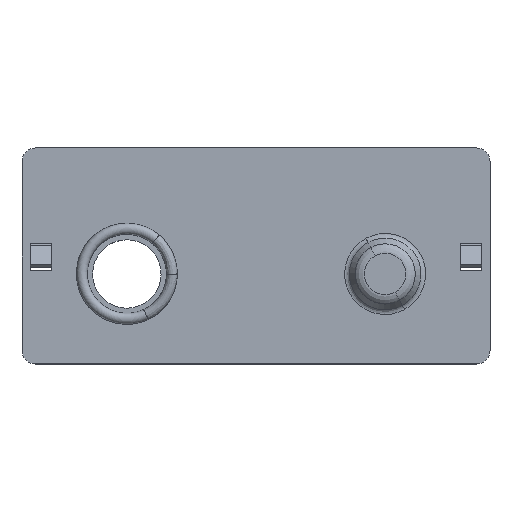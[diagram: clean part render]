
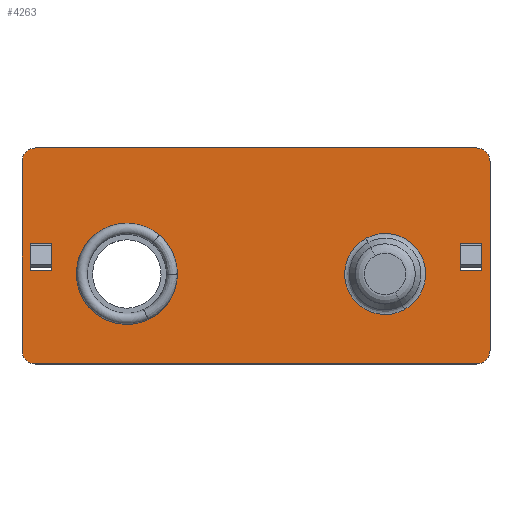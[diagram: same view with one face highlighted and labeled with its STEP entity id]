
A CAD part, top view. The second image highlights one B-rep face of the part: STEP entity #4263.
In plain terms, the highlighted planar face has unit normal (0, 0, 1).
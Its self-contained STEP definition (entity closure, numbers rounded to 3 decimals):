
#214=CARTESIAN_POINT('Vertex',(15.429,-1.975,0.3)) ;
#230=CARTESIAN_POINT('Vertex',(13.271,1.975,0.3)) ;
#233=CARTESIAN_POINT('Axis2P3D Location',(14.35,0.,0.3)) ;
#250=CARTESIAN_POINT('Axis2P3D Location',(14.35,0.,0.3)) ;
#579=CARTESIAN_POINT('Axis2P3D Location',(0.,0.,0.3)) ;
#583=CARTESIAN_POINT('Vertex',(2.266,-1.057,0.3)) ;
#585=CARTESIAN_POINT('Vertex',(0.,2.5,0.3)) ;
#1281=CARTESIAN_POINT('Axis2P3D Location',(0.,0.,0.3)) ;
#1285=CARTESIAN_POINT('Vertex',(1.199,-2.194,0.3)) ;
#1288=CARTESIAN_POINT('Axis2P3D Location',(0.,0.,0.3)) ;
#1292=CARTESIAN_POINT('Vertex',(-1.199,2.194,0.3)) ;
#1295=CARTESIAN_POINT('Axis2P3D Location',(0.,0.,0.3)) ;
#1535=CARTESIAN_POINT('Vertex',(-5.825,-4.25,0.3)) ;
#1538=CARTESIAN_POINT('Line Origine',(-5.825,1.,0.3)) ;
#1542=CARTESIAN_POINT('Vertex',(-5.825,6.25,0.3)) ;
#1562=CARTESIAN_POINT('Axis2P3D Location',(-5.075,-4.25,0.3)) ;
#1566=CARTESIAN_POINT('Vertex',(-5.075,-5.,0.3)) ;
#1593=CARTESIAN_POINT('Line Origine',(7.175,-5.,0.3)) ;
#1597=CARTESIAN_POINT('Vertex',(19.425,-5.,0.3)) ;
#1624=CARTESIAN_POINT('Axis2P3D Location',(19.425,-4.25,0.3)) ;
#1628=CARTESIAN_POINT('Vertex',(20.175,-4.25,0.3)) ;
#1655=CARTESIAN_POINT('Line Origine',(20.175,1.,0.3)) ;
#1659=CARTESIAN_POINT('Vertex',(20.175,6.25,0.3)) ;
#1686=CARTESIAN_POINT('Axis2P3D Location',(19.425,6.25,0.3)) ;
#1690=CARTESIAN_POINT('Vertex',(19.425,7.,0.3)) ;
#1717=CARTESIAN_POINT('Line Origine',(7.175,7.,0.3)) ;
#1721=CARTESIAN_POINT('Vertex',(-5.075,7.,0.3)) ;
#1748=CARTESIAN_POINT('Axis2P3D Location',(-5.075,6.25,0.3)) ;
#1774=CARTESIAN_POINT('Vertex',(19.725,1.7,0.3)) ;
#1797=CARTESIAN_POINT('Vertex',(19.725,0.988,0.3)) ;
#1800=CARTESIAN_POINT('Line Origine',(19.725,1.344,0.3)) ;
#1843=CARTESIAN_POINT('Vertex',(19.725,0.2,0.3)) ;
#1846=CARTESIAN_POINT('Line Origine',(19.725,0.594,0.3)) ;
#1875=CARTESIAN_POINT('Vertex',(18.525,0.2,0.3)) ;
#1878=CARTESIAN_POINT('Line Origine',(19.125,0.2,0.3)) ;
#1908=CARTESIAN_POINT('Vertex',(18.525,0.988,0.3)) ;
#1911=CARTESIAN_POINT('Line Origine',(18.525,0.594,0.3)) ;
#1934=CARTESIAN_POINT('Line Origine',(18.525,1.344,0.3)) ;
#1938=CARTESIAN_POINT('Vertex',(18.525,1.7,0.3)) ;
#1980=CARTESIAN_POINT('Line Origine',(-4.775,1.7,0.3)) ;
#2001=CARTESIAN_POINT('Vertex',(-5.375,1.7,0.3)) ;
#2017=CARTESIAN_POINT('Vertex',(-4.175,1.7,0.3)) ;
#2020=CARTESIAN_POINT('Line Origine',(-4.775,1.7,0.3)) ;
#2055=CARTESIAN_POINT('Vertex',(-4.175,0.988,0.3)) ;
#2058=CARTESIAN_POINT('Line Origine',(-4.175,1.344,0.3)) ;
#2089=CARTESIAN_POINT('Vertex',(-4.175,0.2,0.3)) ;
#2092=CARTESIAN_POINT('Line Origine',(-4.175,0.594,0.3)) ;
#2128=CARTESIAN_POINT('Vertex',(-5.375,0.2,0.3)) ;
#2131=CARTESIAN_POINT('Line Origine',(-4.775,0.2,0.3)) ;
#2148=CARTESIAN_POINT('Line Origine',(-5.375,0.594,0.3)) ;
#2152=CARTESIAN_POINT('Vertex',(-5.375,0.988,0.3)) ;
#2187=CARTESIAN_POINT('Line Origine',(-5.375,1.344,0.3)) ;
#4222=CARTESIAN_POINT('Axis2P3D Location',(0.,0.,0.3)) ;
#234=DIRECTION('Axis2P3D Direction',(0.,0.,1.)) ;
#251=DIRECTION('Axis2P3D Direction',(0.,0.,1.)) ;
#580=DIRECTION('Axis2P3D Direction',(0.,0.,1.)) ;
#1282=DIRECTION('Axis2P3D Direction',(0.,-0.,1.)) ;
#1289=DIRECTION('Axis2P3D Direction',(0.,-0.,1.)) ;
#1296=DIRECTION('Axis2P3D Direction',(0.,-0.,1.)) ;
#1539=DIRECTION('Vector Direction',(0.,-1.,0.)) ;
#1563=DIRECTION('Axis2P3D Direction',(0.,0.,1.)) ;
#1594=DIRECTION('Vector Direction',(1.,0.,0.)) ;
#1625=DIRECTION('Axis2P3D Direction',(0.,0.,1.)) ;
#1656=DIRECTION('Vector Direction',(0.,1.,0.)) ;
#1687=DIRECTION('Axis2P3D Direction',(0.,-0.,1.)) ;
#1718=DIRECTION('Vector Direction',(-1.,0.,0.)) ;
#1749=DIRECTION('Axis2P3D Direction',(0.,0.,1.)) ;
#1801=DIRECTION('Vector Direction',(0.,1.,0.)) ;
#1847=DIRECTION('Vector Direction',(0.,1.,0.)) ;
#1879=DIRECTION('Vector Direction',(-1.,0.,0.)) ;
#1912=DIRECTION('Vector Direction',(0.,-1.,0.)) ;
#1935=DIRECTION('Vector Direction',(0.,-1.,0.)) ;
#1981=DIRECTION('Vector Direction',(1.,0.,0.)) ;
#2021=DIRECTION('Vector Direction',(1.,0.,0.)) ;
#2059=DIRECTION('Vector Direction',(0.,-1.,0.)) ;
#2093=DIRECTION('Vector Direction',(0.,-1.,0.)) ;
#2132=DIRECTION('Vector Direction',(-1.,0.,0.)) ;
#2149=DIRECTION('Vector Direction',(0.,1.,0.)) ;
#2188=DIRECTION('Vector Direction',(0.,1.,0.)) ;
#4223=DIRECTION('Axis2P3D Direction',(0.,0.,1.)) ;
#4224=DIRECTION('Axis2P3D XDirection',(1.,0.,0.)) ;
#235=AXIS2_PLACEMENT_3D('Circle Axis2P3D',#233,#234,$) ;
#252=AXIS2_PLACEMENT_3D('Circle Axis2P3D',#250,#251,$) ;
#581=AXIS2_PLACEMENT_3D('Circle Axis2P3D',#579,#580,$) ;
#1283=AXIS2_PLACEMENT_3D('Circle Axis2P3D',#1281,#1282,$) ;
#1290=AXIS2_PLACEMENT_3D('Circle Axis2P3D',#1288,#1289,$) ;
#1297=AXIS2_PLACEMENT_3D('Circle Axis2P3D',#1295,#1296,$) ;
#1564=AXIS2_PLACEMENT_3D('Circle Axis2P3D',#1562,#1563,$) ;
#1626=AXIS2_PLACEMENT_3D('Circle Axis2P3D',#1624,#1625,$) ;
#1688=AXIS2_PLACEMENT_3D('Circle Axis2P3D',#1686,#1687,$) ;
#1750=AXIS2_PLACEMENT_3D('Circle Axis2P3D',#1748,#1749,$) ;
#4225=AXIS2_PLACEMENT_3D('Plane Axis2P3D',#4222,#4223,#4224) ;
#4228=ORIENTED_EDGE('',*,*,#1568,.F.) ;
#4229=ORIENTED_EDGE('',*,*,#1599,.T.) ;
#4230=ORIENTED_EDGE('',*,*,#1630,.F.) ;
#4231=ORIENTED_EDGE('',*,*,#1661,.T.) ;
#4232=ORIENTED_EDGE('',*,*,#1692,.F.) ;
#4233=ORIENTED_EDGE('',*,*,#1723,.T.) ;
#4234=ORIENTED_EDGE('',*,*,#1752,.F.) ;
#4235=ORIENTED_EDGE('',*,*,#1544,.T.) ;
#4238=ORIENTED_EDGE('',*,*,#1294,.F.) ;
#4239=ORIENTED_EDGE('',*,*,#587,.F.) ;
#4240=ORIENTED_EDGE('',*,*,#1287,.F.) ;
#4241=ORIENTED_EDGE('',*,*,#1299,.F.) ;
#4244=ORIENTED_EDGE('',*,*,#2062,.T.) ;
#4245=ORIENTED_EDGE('',*,*,#2096,.T.) ;
#4246=ORIENTED_EDGE('',*,*,#2135,.T.) ;
#4247=ORIENTED_EDGE('',*,*,#2154,.T.) ;
#4248=ORIENTED_EDGE('',*,*,#2191,.T.) ;
#4249=ORIENTED_EDGE('',*,*,#2024,.F.) ;
#4252=ORIENTED_EDGE('',*,*,#1850,.F.) ;
#4253=ORIENTED_EDGE('',*,*,#1882,.T.) ;
#4254=ORIENTED_EDGE('',*,*,#1915,.F.) ;
#4255=ORIENTED_EDGE('',*,*,#1940,.F.) ;
#4256=ORIENTED_EDGE('',*,*,#1984,.T.) ;
#4257=ORIENTED_EDGE('',*,*,#1804,.F.) ;
#4260=ORIENTED_EDGE('',*,*,#237,.F.) ;
#4261=ORIENTED_EDGE('',*,*,#254,.F.) ;
#4242=FACE_BOUND('',#4237,.T.) ;
#4250=FACE_BOUND('',#4243,.T.) ;
#4258=FACE_BOUND('',#4251,.T.) ;
#4262=FACE_BOUND('',#4259,.T.) ;
#1540=VECTOR('Line Direction',#1539,1.) ;
#1595=VECTOR('Line Direction',#1594,1.) ;
#1657=VECTOR('Line Direction',#1656,1.) ;
#1719=VECTOR('Line Direction',#1718,1.) ;
#1802=VECTOR('Line Direction',#1801,1.) ;
#1848=VECTOR('Line Direction',#1847,1.) ;
#1880=VECTOR('Line Direction',#1879,1.) ;
#1913=VECTOR('Line Direction',#1912,1.) ;
#1936=VECTOR('Line Direction',#1935,1.) ;
#1982=VECTOR('Line Direction',#1981,1.) ;
#2022=VECTOR('Line Direction',#2021,1.) ;
#2060=VECTOR('Line Direction',#2059,1.) ;
#2094=VECTOR('Line Direction',#2093,1.) ;
#2133=VECTOR('Line Direction',#2132,1.) ;
#2150=VECTOR('Line Direction',#2149,1.) ;
#2189=VECTOR('Line Direction',#2188,1.) ;
#4263=ADVANCED_FACE('PartBody',(#4236,#4242,#4250,#4258,#4262),#4226,.T.) ;
#236=CIRCLE('generated circle',#235,2.251) ;
#253=CIRCLE('generated circle',#252,2.251) ;
#582=CIRCLE('generated circle',#581,2.5) ;
#1284=CIRCLE('generated circle',#1283,2.5) ;
#1291=CIRCLE('generated circle',#1290,2.5) ;
#1298=CIRCLE('generated circle',#1297,2.5) ;
#1565=CIRCLE('generated circle',#1564,0.75) ;
#1627=CIRCLE('generated circle',#1626,0.75) ;
#1689=CIRCLE('generated circle',#1688,0.75) ;
#1751=CIRCLE('generated circle',#1750,0.75) ;
#237=EDGE_CURVE('',#231,#215,#236,.T.) ;
#254=EDGE_CURVE('',#215,#231,#253,.T.) ;
#587=EDGE_CURVE('',#584,#586,#582,.T.) ;
#1287=EDGE_CURVE('',#1286,#584,#1284,.T.) ;
#1294=EDGE_CURVE('',#586,#1293,#1291,.T.) ;
#1299=EDGE_CURVE('',#1293,#1286,#1298,.T.) ;
#1544=EDGE_CURVE('',#1543,#1536,#1541,.T.) ;
#1568=EDGE_CURVE('',#1567,#1536,#1565,.F.) ;
#1599=EDGE_CURVE('',#1567,#1598,#1596,.T.) ;
#1630=EDGE_CURVE('',#1629,#1598,#1627,.F.) ;
#1661=EDGE_CURVE('',#1629,#1660,#1658,.T.) ;
#1692=EDGE_CURVE('',#1691,#1660,#1689,.F.) ;
#1723=EDGE_CURVE('',#1691,#1722,#1720,.T.) ;
#1752=EDGE_CURVE('',#1543,#1722,#1751,.F.) ;
#1804=EDGE_CURVE('',#1798,#1775,#1803,.T.) ;
#1850=EDGE_CURVE('',#1844,#1798,#1849,.T.) ;
#1882=EDGE_CURVE('',#1844,#1876,#1881,.T.) ;
#1915=EDGE_CURVE('',#1909,#1876,#1914,.T.) ;
#1940=EDGE_CURVE('',#1939,#1909,#1937,.T.) ;
#1984=EDGE_CURVE('',#1939,#1775,#1983,.T.) ;
#2024=EDGE_CURVE('',#2018,#2002,#2023,.F.) ;
#2062=EDGE_CURVE('',#2018,#2056,#2061,.T.) ;
#2096=EDGE_CURVE('',#2056,#2090,#2095,.T.) ;
#2135=EDGE_CURVE('',#2090,#2129,#2134,.T.) ;
#2154=EDGE_CURVE('',#2129,#2153,#2151,.T.) ;
#2191=EDGE_CURVE('',#2153,#2002,#2190,.T.) ;
#4227=EDGE_LOOP('',(#4228,#4229,#4230,#4231,#4232,#4233,#4234,#4235)) ;
#4237=EDGE_LOOP('',(#4238,#4239,#4240,#4241)) ;
#4243=EDGE_LOOP('',(#4244,#4245,#4246,#4247,#4248,#4249)) ;
#4251=EDGE_LOOP('',(#4252,#4253,#4254,#4255,#4256,#4257)) ;
#4259=EDGE_LOOP('',(#4260,#4261)) ;
#4236=FACE_OUTER_BOUND('',#4227,.T.) ;
#1541=LINE('Line',#1538,#1540) ;
#1596=LINE('Line',#1593,#1595) ;
#1658=LINE('Line',#1655,#1657) ;
#1720=LINE('Line',#1717,#1719) ;
#1803=LINE('Line',#1800,#1802) ;
#1849=LINE('Line',#1846,#1848) ;
#1881=LINE('Line',#1878,#1880) ;
#1914=LINE('Line',#1911,#1913) ;
#1937=LINE('Line',#1934,#1936) ;
#1983=LINE('Line',#1980,#1982) ;
#2023=LINE('Line',#2020,#2022) ;
#2061=LINE('Line',#2058,#2060) ;
#2095=LINE('Line',#2092,#2094) ;
#2134=LINE('Line',#2131,#2133) ;
#2151=LINE('Line',#2148,#2150) ;
#2190=LINE('Line',#2187,#2189) ;
#4226=PLANE('Plane',#4225) ;
#215=VERTEX_POINT('',#214) ;
#231=VERTEX_POINT('',#230) ;
#584=VERTEX_POINT('',#583) ;
#586=VERTEX_POINT('',#585) ;
#1286=VERTEX_POINT('',#1285) ;
#1293=VERTEX_POINT('',#1292) ;
#1536=VERTEX_POINT('',#1535) ;
#1543=VERTEX_POINT('',#1542) ;
#1567=VERTEX_POINT('',#1566) ;
#1598=VERTEX_POINT('',#1597) ;
#1629=VERTEX_POINT('',#1628) ;
#1660=VERTEX_POINT('',#1659) ;
#1691=VERTEX_POINT('',#1690) ;
#1722=VERTEX_POINT('',#1721) ;
#1775=VERTEX_POINT('',#1774) ;
#1798=VERTEX_POINT('',#1797) ;
#1844=VERTEX_POINT('',#1843) ;
#1876=VERTEX_POINT('',#1875) ;
#1909=VERTEX_POINT('',#1908) ;
#1939=VERTEX_POINT('',#1938) ;
#2002=VERTEX_POINT('',#2001) ;
#2018=VERTEX_POINT('',#2017) ;
#2056=VERTEX_POINT('',#2055) ;
#2090=VERTEX_POINT('',#2089) ;
#2129=VERTEX_POINT('',#2128) ;
#2153=VERTEX_POINT('',#2152) ;
